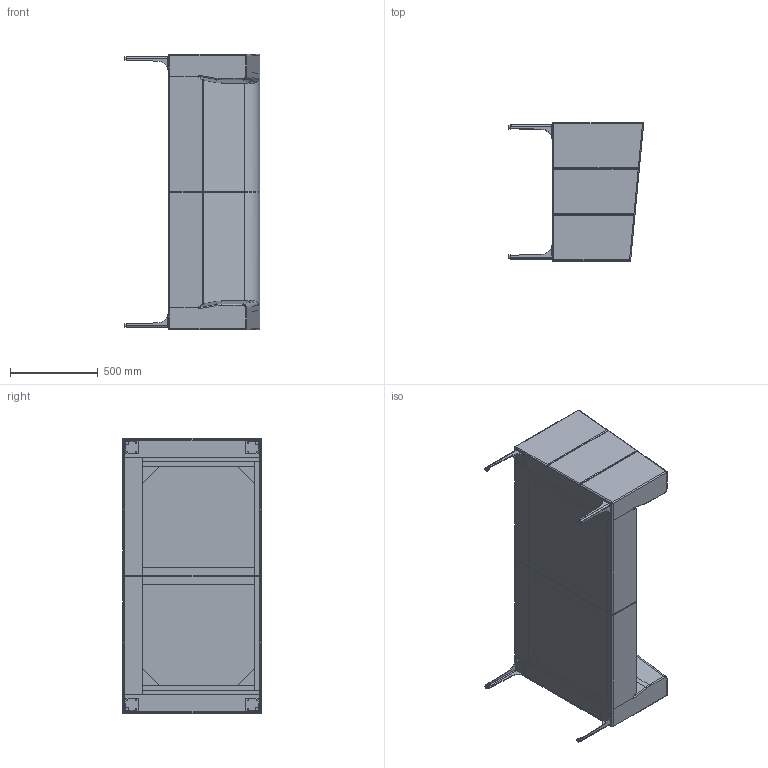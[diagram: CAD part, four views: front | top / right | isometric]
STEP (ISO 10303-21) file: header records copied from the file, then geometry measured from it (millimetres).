
FILE_DESCRIPTION (( 'STEP AP203' ), '1' );
FILE_NAME ('Armour 2 Seater Sofa W1570 x D790 x H770.STEP', '2024-04-06T06:27:58', ( '' ), ( '' ), 'SwSTEP 2.0', 'SolidWorks 2023', '' );
FILE_SCHEMA (( 'CONFIG_CONTROL_DESIGN' ));
Length unit declared in the file: millimetre
Products named in the file (6): AS_Sofa 1; Armour Sturcture; Armour 2 Seater Sofa W1570 x D790 x H770; Armour Leg; MirrorArmour Leg; M10 Leveller
Assembly tree (10 placements, depth 2):
  Armour 2 Seater Sofa W1570 x D790 x H770
    Armour Sturcture
    Armour Leg  x2
    MirrorArmour Leg  x2
    M10 Leveller  x4
    AS_Sofa 1
Bounding box: 771.4 x 790 x 1570 mm (x, y, z)
Volume: 434709418.5 mm3; surface area: 10484083.2 mm2
Topology: 45 solids, 45 shells, 545 faces, 1256 edges, 792 vertices
Faces by surface type: plane 350, cylinder 152, bspline 17, torus 16, sphere 10
Entity records: 13624 total; most frequent: CARTESIAN_POINT 2954, ORIENTED_EDGE 2032, DIRECTION 2006, EDGE_CURVE 1016, VECTOR 758, LINE 758, VERTEX_POINT 644, AXIS2_PLACEMENT_3D 624
